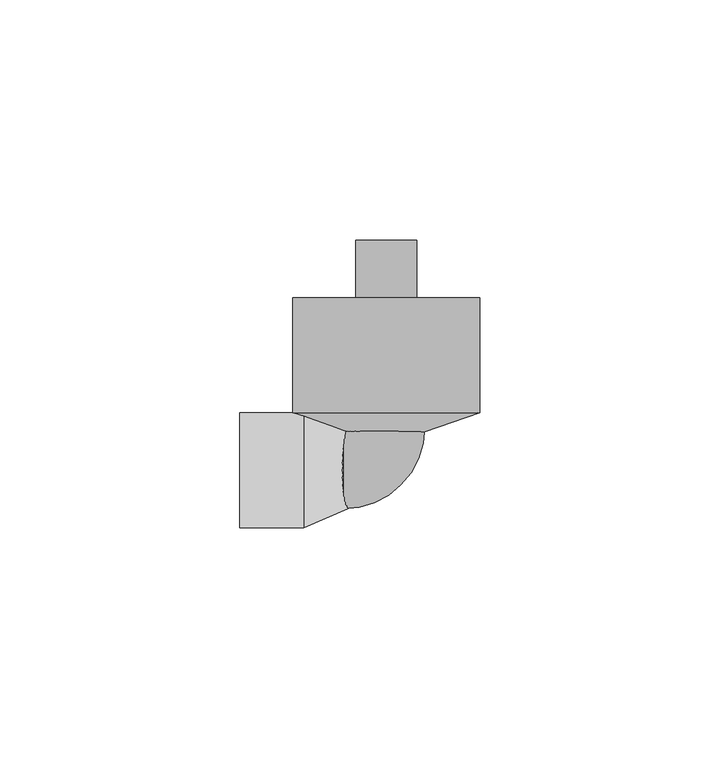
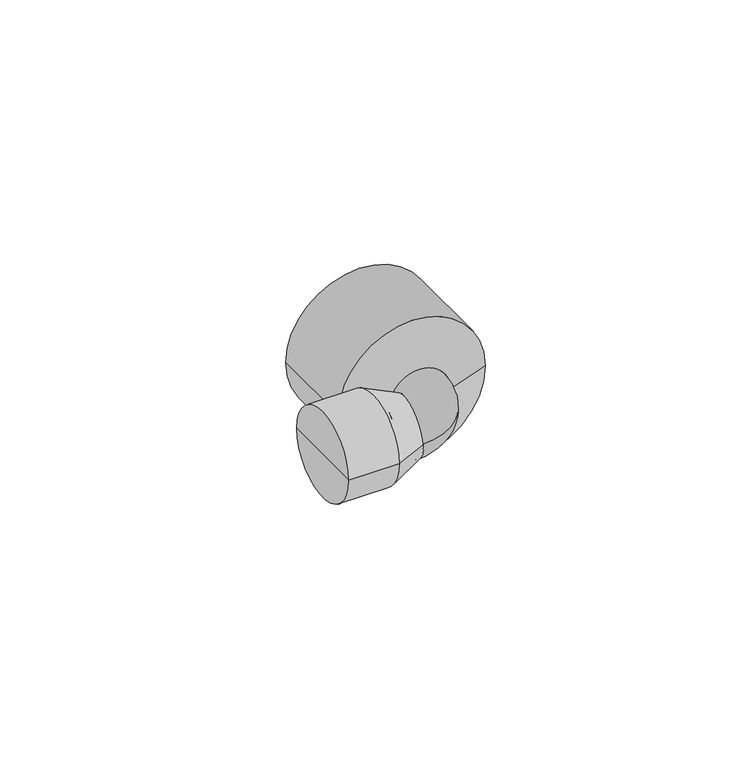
"""IFC4 building model written with IfcOpenShell, lengths in millimetres: pipe fitting geometry, KAN-therm PP kolano gz 1_2 : KAN-therm PP kolano gz 1_2."""

from ifc_helpers import new_model, si_unit, point, frame, origin, place, context, project, spatial, polyline, circle_curve, ellipse_curve, trimmed, source, transform, mapped, element, save
from ifc_brep_helpers import plane_surface, cylinder_surface, revolved_surface, advanced_brep


def pipe_fitting_666acf45(model_context):
    return source(origin(), model_context, "Body", "AdvancedBrep", [
        advanced_brep(
        [(0.0, 48.0, 0.0), (6.35, 48.0, 0.0), (-6.35, 48.0, 0.0), (-6.35, 36.0, 0.0), (6.35, 36.0, 0.0), (0.0, 36.0, 0.0)],
        [
            (0, 1),
            (1, 2, circle_curve(frame((0.0, 48.0, 0.0), z_axis=(0.0, 1.0, 0.0), x_axis=(1.0, 0.0, 0.0)), 6.35)),
            (2, 0),
            (2, 1, circle_curve(frame((0.0, 48.0, 0.0), z_axis=(0.0, 1.0, 0.0), x_axis=(1.0, 0.0, 0.0)), 6.35)),
            (3, 4, circle_curve(frame((0.0, 36.0, 0.0), z_axis=(0.0, -1.0, 0.0), x_axis=(1.0, 0.0, 0.0)), 6.35)),
            (4, 5),
            (5, 3),
            (4, 3, circle_curve(frame((0.0, 36.0, 0.0), z_axis=(0.0, -1.0, 0.0), x_axis=(1.0, 0.0, 0.0)), 6.35)),
            (1, 4),
            (3, 2),
        ],
        [
            plane_surface(frame((0.0, 48.0, 0.0), z_axis=(0.0, 1.0, 0.0), x_axis=(1.0, 0.0, 0.0))),
            plane_surface(frame((0.0, 36.0, 0.0), z_axis=(0.0, -1.0, 0.0), x_axis=(1.0, 0.0, 0.0))),
            cylinder_surface(frame((0.0, 2000.0, 0.0), z_axis=(0.0, 1.0, 0.0), x_axis=(1.0, 0.0, 0.0)), 6.35),
        ],
        [
            (0, [[1, 2, 3]]),
            (0, [[-3, 4, -1]]),
            (1, [[5, 6, 7]]),
            (1, [[8, -7, -6]]),
            (2, [[-2, 9, -5, 10]]),
            (2, [[-4, -10, -8, -9]]),
        ],
    ),
        advanced_brep(
        [(-8.0, 24.0, 0.0), (8.0, 24.0, 0.0), (-8.0, 9.0, 0.0), (8.0, 9.0, 0.0), (-17.2, 8.0, 0.0), (-17.2, -8.0, 0.0), (-9.0, -8.0, 0.0), (-9.0, 8.0, 0.0)],
        [
            (0, 1, circle_curve(frame((0.0, 24.0, 0.0), z_axis=(0.0, 1.0, 0.0), x_axis=(1.0, 0.0, 0.0)), 8.0)),
            (1, 0, circle_curve(frame((0.0, 24.0, 0.0), z_axis=(0.0, 1.0, 0.0), x_axis=(1.0, 0.0, 0.0)), 8.0)),
            (0, 2),
            (2, 3, circle_curve(frame((0.0, 9.0, 0.0), z_axis=(0.0, 1.0, 0.0), x_axis=(1.0, 0.0, 0.0)), 8.0)),
            (3, 1),
            (3, 2, circle_curve(frame((0.0, 9.0, 0.0), z_axis=(0.0, 1.0, 0.0), x_axis=(1.0, 0.0, 0.0)), 8.0)),
            (4, 5, circle_curve(frame((-17.2, 0.0, 0.0), z_axis=(-1.0, 0.0, 0.0), x_axis=(0.0, -1.0, 0.0)), 8.0)),
            (5, 4, circle_curve(frame((-17.2, 0.0, 0.0), z_axis=(-1.0, 0.0, 0.0), x_axis=(0.0, -1.0, 0.0)), 8.0)),
            (6, 7, circle_curve(frame((-9.0, 0.0, 0.0), z_axis=(-1.0, 0.0, 0.0), x_axis=(0.0, -1.0, 0.0)), 8.0)),
            (7, 4),
            (5, 6),
            (7, 6, circle_curve(frame((-9.0, 0.0, 0.0), z_axis=(-1.0, 0.0, 0.0), x_axis=(0.0, -1.0, 0.0)), 8.0)),
            (6, 3, circle_curve(frame((-9.0, 9.0, 0.0), z_axis=(0.0, 0.0, 1.0), x_axis=(1.0, 0.0, 0.0)), 17.0)),
            (2, 7, circle_curve(frame((-9.0, 9.0, 0.0), z_axis=(0.0, 0.0, -1.0), x_axis=(1.0, 0.0, 0.0)), 1.0)),
        ],
        [
            plane_surface(frame((0.0, 24.0, 0.0), z_axis=(0.0, 1.0, 0.0), x_axis=(0.0, 0.0, 1.0))),
            cylinder_surface(frame((0.0, 24.0, 0.0), z_axis=(0.0, 1.0, 0.0), x_axis=(1.0, 0.0, 0.0)), 8.0),
            plane_surface(frame((-17.2, 0.0, 0.0), z_axis=(-1.0, 0.0, 0.0), x_axis=(0.0, 0.0, 1.0))),
            cylinder_surface(frame((-9.0, 0.0, 0.0), z_axis=(1.0, 0.0, 0.0), x_axis=(0.0, -1.0, 0.0)), 8.0),
            revolved_surface(trimmed(ellipse_curve(frame((0.0, 9.0, 0.0), z_axis=(0.0, 1.0, 0.0), x_axis=(1.0, 0.0, 0.0)), 8.0, 8.0), [point((-8.0, 9.0, 0.0))], [point((8.0, 9.0, 0.0))], True, "CARTESIAN"), (-9.0, 9.0, 0.0), (0.0, 0.0, -1.0)),
            revolved_surface(trimmed(ellipse_curve(frame((0.0, 9.0, 0.0), z_axis=(0.0, 1.0, 0.0), x_axis=(1.0, 0.0, 0.0)), 8.0, 8.0), [point((8.0, 9.0, 0.0))], [point((-8.0, 9.0, 0.0))], True, "CARTESIAN"), (-9.0, 9.0, 0.0), (0.0, 0.0, -1.0)),
        ],
        [
            (0, [[1, 2]]),
            (1, [[-1, 3, 4, 5]]),
            (1, [[-2, -5, 6, -3]]),
            (2, [[7, 8]]),
            (3, [[9, 10, -8, 11]]),
            (3, [[12, -11, -7, -10]]),
            (4, [[13, -4, 14, -9]]),
            (5, [[-14, -6, -13, -12]]),
        ],
    ),
        advanced_brep(
        [(0.0, 36.0, 0.0), (19.5, 36.0, 0.0), (-19.5, 36.0, 0.0), (-8.0, 8.0, 0.0), (8.0, 8.0, 0.0), (0.0, 8.0, 0.0), (19.5, 12.0, 0.0), (-19.5, 12.0, 0.0)],
        [
            (0, 1),
            (1, 2, circle_curve(frame((0.0, 36.0, 0.0), z_axis=(0.0, 1.0, 0.0), x_axis=(1.0, 0.0, 0.0)), 19.5)),
            (2, 0),
            (2, 1, circle_curve(frame((0.0, 36.0, 0.0), z_axis=(0.0, 1.0, 0.0), x_axis=(1.0, 0.0, 0.0)), 19.5)),
            (3, 4, circle_curve(frame((0.0, 8.0, 0.0), z_axis=(0.0, -1.0, 0.0), x_axis=(1.0, 0.0, 0.0)), 8.0)),
            (4, 5),
            (5, 3),
            (4, 3, circle_curve(frame((0.0, 8.0, 0.0), z_axis=(0.0, -1.0, 0.0), x_axis=(1.0, 0.0, 0.0)), 8.0)),
            (1, 6),
            (6, 7, circle_curve(frame((0.0, 12.0, 0.0), z_axis=(0.0, 1.0, 0.0), x_axis=(1.0, 0.0, 0.0)), 19.5)),
            (7, 2),
            (7, 6, circle_curve(frame((0.0, 12.0, 0.0), z_axis=(0.0, 1.0, 0.0), x_axis=(1.0, 0.0, 0.0)), 19.5)),
            (6, 4),
            (3, 7),
        ],
        [
            plane_surface(frame((0.0, 36.0, 0.0), z_axis=(0.0, 1.0, 0.0), x_axis=(1.0, 0.0, 0.0))),
            plane_surface(frame((0.0, 8.0, 0.0), z_axis=(0.0, -1.0, 0.0), x_axis=(1.0, 0.0, 0.0))),
            cylinder_surface(frame((0.0, 2011.0, 0.0), z_axis=(0.0, 1.0, 0.0), x_axis=(1.0, 0.0, 0.0)), 19.5),
            revolved_surface(polyline([(8.0, 8.0, 0.0), (19.5, 12.0, 0.0)]), (0.0, 2011.0, 0.0), (0.0, 1.0, 0.0)),
        ],
        [
            (0, [[1, 2, 3]]),
            (0, [[-3, 4, -1]]),
            (1, [[5, 6, 7]]),
            (1, [[8, -7, -6]]),
            (2, [[-2, 9, 10, 11]]),
            (2, [[-4, -11, 12, -9]]),
            (3, [[-10, 13, -5, 14]]),
            (3, [[-12, -14, -8, -13]]),
        ],
    ),
        advanced_brep(
        [(-17.2, 12.0, 0.0), (-17.2, -12.0, 0.0), (-30.5, -12.0, 0.0), (-30.5, 12.0, 0.0), (-8.0, 0.0, 0.0), (-8.0, -8.0, 0.0), (-8.0, 8.0, 0.0), (-30.5, 0.0, 0.0)],
        [
            (0, 1, circle_curve(frame((-17.2, 0.0, 0.0), z_axis=(-1.0, 0.0, 0.0), x_axis=(0.0, -1.0, 0.0)), 12.0)),
            (1, 2),
            (2, 3, circle_curve(frame((-30.5, 0.0, 0.0), z_axis=(1.0, 0.0, 0.0), x_axis=(0.0, -1.0, 0.0)), 12.0)),
            (3, 0),
            (1, 0, circle_curve(frame((-17.2, 0.0, 0.0), z_axis=(-1.0, 0.0, 0.0), x_axis=(0.0, -1.0, 0.0)), 12.0)),
            (3, 2, circle_curve(frame((-30.5, 0.0, 0.0), z_axis=(1.0, 0.0, 0.0), x_axis=(0.0, -1.0, 0.0)), 12.0)),
            (4, 5),
            (5, 6, circle_curve(frame((-8.0, 0.0, 0.0), z_axis=(1.0, 0.0, 0.0), x_axis=(0.0, -1.0, 0.0)), 8.0)),
            (6, 4),
            (6, 5, circle_curve(frame((-8.0, 0.0, 0.0), z_axis=(1.0, 0.0, 0.0), x_axis=(0.0, -1.0, 0.0)), 8.0)),
            (2, 7),
            (7, 3),
            (5, 1),
            (0, 6),
        ],
        [
            cylinder_surface(frame((2000.0, 0.0, 0.0), z_axis=(1.0, 0.0, 0.0), x_axis=(0.0, -1.0, 0.0)), 12.0),
            plane_surface(frame((-8.0, 0.0, 0.0), z_axis=(1.0, 0.0, 0.0), x_axis=(0.0, -1.0, 0.0))),
            plane_surface(frame((-30.5, 0.0, 0.0), z_axis=(-1.0, 0.0, 0.0), x_axis=(0.0, -1.0, 0.0))),
            revolved_surface(polyline([(-17.2, -12.0, 0.0), (-8.0, -8.0, 0.0)]), (2000.0, 0.0, 0.0), (1.0, 0.0, 0.0)),
        ],
        [
            (0, [[1, 2, 3, 4]]),
            (0, [[5, -4, 6, -2]]),
            (1, [[7, 8, 9]]),
            (1, [[-9, 10, -7]]),
            (2, [[-3, 11, 12]]),
            (2, [[-6, -12, -11]]),
            (3, [[-8, 13, -1, 14]]),
            (3, [[-10, -14, -5, -13]]),
        ],
    ),
    ])


if __name__ == "__main__":
    model = new_model("IFC4")
    model_context = context("Model", 3, world=origin())
    ifc_project = project(units=[si_unit("LENGTHUNIT", "METRE", prefix="MILLI")], contexts=[model_context])
    site = spatial("IfcSite", under=ifc_project)
    building = spatial("IfcBuilding", under=site)
    placement = place(None, origin())
    pipe_fitting_shape = pipe_fitting_666acf45(model_context)
    element("IfcPipeFitting", 1, ObjectType="KAN-therm PP kolano gz 1_2 : KAN-therm PP kolano gz 1_2", at=placement, inside=building, context=model_context, shape_type="MappedRepresentation", body=[
        mapped(pipe_fitting_shape, transform((0.0, 0.0, 0.0), x_axis=(1.0, 0.0, 0.0), y_axis=(0.0, 1.0, 0.0), z_axis=(0.0, 0.0, 1.0))),
    ])
    save(model, "model.ifc")
